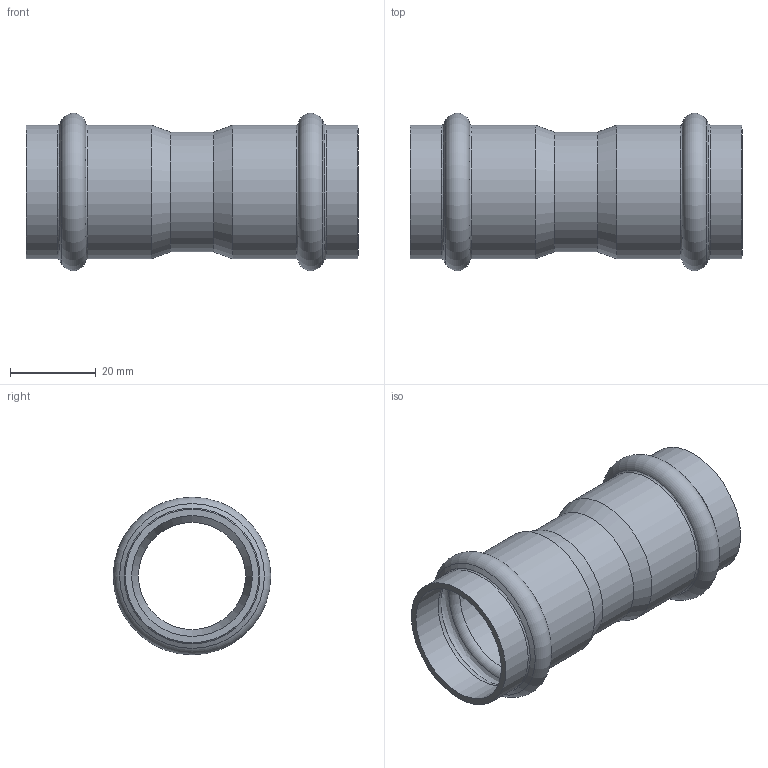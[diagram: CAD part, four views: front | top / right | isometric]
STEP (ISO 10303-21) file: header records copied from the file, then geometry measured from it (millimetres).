
FILE_DESCRIPTION((''),'2;1');
FILE_NAME('G:\Technics\CAD\Bauteile\028\6927028(1).stp','2008-02-25T08:38:53',('herberg'),(''),'Autodesk Inventor 2008','Autodesk Inventor 2008','');
FILE_SCHEMA(('AUTOMOTIVE_DESIGN { 1 0 10303 214 1 1 1 1 }'));
Length unit declared in the file: millimetre
Products named in the file (1): 6927028(1)
Bounding box: 77.5 x 36.78 x 36.78 mm (x, y, z)
Volume: 11703.2 mm3; surface area: 15882.6 mm2
Topology: 1 solids, 1 shells, 32 faces, 62 edges, 32 vertices
Faces by surface type: cylinder 10, cone 8, torus 6, bspline 6, plane 2
Full cylindrical faces by diameter (mm): 25 x1, 28 x1, 28.2 x4, 31.2 x4
Entity records: 986 total; most frequent: CARTESIAN_POINT 433, DIRECTION 118, ORIENTED_EDGE 64, EDGE_LOOP 64, AXIS2_PLACEMENT_3D 59, VERTEX_POINT 32, CIRCLE 32, EDGE_CURVE 32
